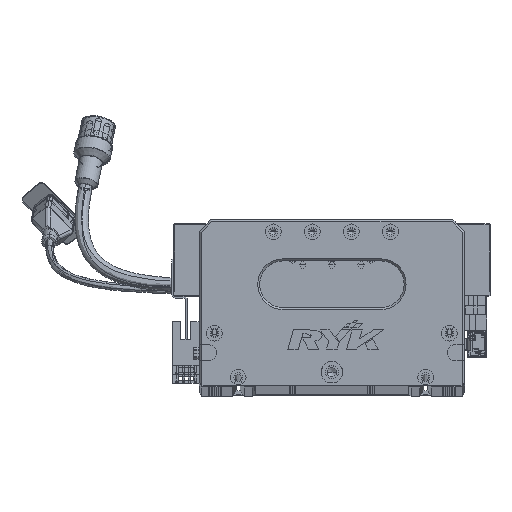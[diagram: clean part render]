
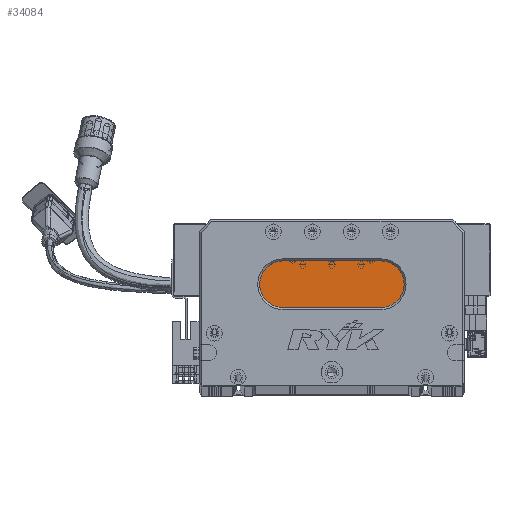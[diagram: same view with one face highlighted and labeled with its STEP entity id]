
A CAD part, top view. The second image highlights one B-rep face of the part: STEP entity #34084.
In plain terms, the highlighted planar face has unit normal (0, 0, 1) as drawn and (0, 0, -1) by its records, which use the part's own axes.
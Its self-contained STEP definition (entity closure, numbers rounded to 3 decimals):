
#3911 = EDGE_CURVE ( 'NONE', #50973, #111912, #36122, .T. ) ;
#6490 = DIRECTION ( 'NONE',  ( -1., 0., 0. ) ) ;
#7070 = PLANE ( 'NONE',  #29927 ) ;
#7629 = EDGE_CURVE ( 'NONE', #111912, #37285, #83543, .T. ) ;
#9300 = VECTOR ( 'NONE', #6490, 1000. ) ;
#17282 = ORIENTED_EDGE ( 'NONE', *, *, #7629, .T. ) ;
#27736 = DIRECTION ( 'NONE',  ( -1., 0., 0. ) ) ;
#29927 = AXIS2_PLACEMENT_3D ( 'NONE', #90016, #89568, #27736 ) ;
#30556 = CARTESIAN_POINT ( 'NONE',  ( 31., 52., 13. ) ) ;
#34043 = AXIS2_PLACEMENT_3D ( 'NONE', #97629, #128769, #66960 ) ;
#34084 = ADVANCED_FACE ( 'NONE', ( #127092 ), #7070, .T. ) ;
#36122 = CIRCLE ( 'NONE', #63005, 12. ) ;
#36875 = EDGE_CURVE ( 'NONE', #37285, #112827, #58741, .T. ) ;
#37285 = VERTEX_POINT ( 'NONE', #87876 ) ;
#44272 = VECTOR ( 'NONE', #107373, 1000. ) ;
#45052 = CARTESIAN_POINT ( 'NONE',  ( 93., 64., 13. ) ) ;
#46254 = ORIENTED_EDGE ( 'NONE', *, *, #3911, .T. ) ;
#49463 = ORIENTED_EDGE ( 'NONE', *, *, #100493, .T. ) ;
#50016 = ORIENTED_EDGE ( 'NONE', *, *, #36875, .T. ) ;
#50540 = DIRECTION ( 'NONE',  ( -1., 0., 0. ) ) ;
#50973 = VERTEX_POINT ( 'NONE', #45052 ) ;
#54614 = CARTESIAN_POINT ( 'NONE',  ( 93., 52., 13. ) ) ;
#58741 = CIRCLE ( 'NONE', #69092, 12. ) ;
#63005 = AXIS2_PLACEMENT_3D ( 'NONE', #54614, #65461, #106973 ) ;
#65461 = DIRECTION ( 'NONE',  ( 0., 0., -1. ) ) ;
#66960 = DIRECTION ( 'NONE',  ( -1., 0., 0. ) ) ;
#69092 = AXIS2_PLACEMENT_3D ( 'NONE', #71268, #69947, #50540 ) ;
#69947 = DIRECTION ( 'NONE',  ( 0., 0., -1. ) ) ;
#71268 = CARTESIAN_POINT ( 'NONE',  ( 43., 52., 13. ) ) ;
#73262 = ORIENTED_EDGE ( 'NONE', *, *, #133662, .T. ) ;
#83103 = LINE ( 'NONE', #85255, #44272 ) ;
#83543 = LINE ( 'NONE', #129609, #9300 ) ;
#85255 = CARTESIAN_POINT ( 'NONE',  ( 93., 64., 13. ) ) ;
#87876 = CARTESIAN_POINT ( 'NONE',  ( 43., 40., 13. ) ) ;
#89568 = DIRECTION ( 'NONE',  ( 0., 0., -1. ) ) ;
#90016 = CARTESIAN_POINT ( 'NONE',  ( 93., 52., 13. ) ) ;
#95872 = CARTESIAN_POINT ( 'NONE',  ( 93., 40., 13. ) ) ;
#97629 = CARTESIAN_POINT ( 'NONE',  ( 43., 52., 13. ) ) ;
#100493 = EDGE_CURVE ( 'NONE', #123732, #50973, #83103, .T. ) ;
#106973 = DIRECTION ( 'NONE',  ( -1., 0., 0. ) ) ;
#107373 = DIRECTION ( 'NONE',  ( 1., 0., 0. ) ) ;
#111912 = VERTEX_POINT ( 'NONE', #95872 ) ;
#112827 = VERTEX_POINT ( 'NONE', #30556 ) ;
#123732 = VERTEX_POINT ( 'NONE', #133643 ) ;
#124256 = CIRCLE ( 'NONE', #34043, 12. ) ;
#127092 = FACE_OUTER_BOUND ( 'NONE', #130245, .T. ) ;
#128769 = DIRECTION ( 'NONE',  ( 0., 0., -1. ) ) ;
#129609 = CARTESIAN_POINT ( 'NONE',  ( 93., 40., 13. ) ) ;
#130245 = EDGE_LOOP ( 'NONE', ( #46254, #17282, #50016, #73262, #49463 ) ) ;
#133643 = CARTESIAN_POINT ( 'NONE',  ( 43., 64., 13. ) ) ;
#133662 = EDGE_CURVE ( 'NONE', #112827, #123732, #124256, .T. ) ;
